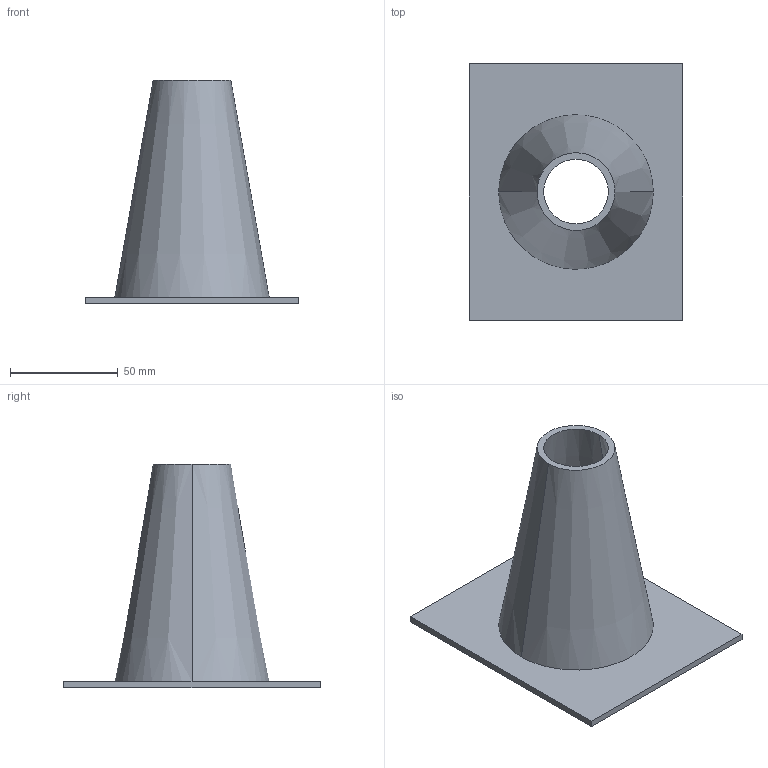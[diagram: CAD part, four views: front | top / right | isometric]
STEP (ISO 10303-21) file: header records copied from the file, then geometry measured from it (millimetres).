
FILE_DESCRIPTION(('CATIA V5 STEP Exchange'),'2;1');
FILE_NAME('C:\_Andres\UNIVERSIDAD\IQS\ASIGNATURAS\DAO\EXF\EXF-15161c\1original\Formosa_Marín_Ej08-ensambla_v9.stp','2016-03-04T21:37:16+00:00',('none'),('none'),'CATIA Version 5 Release 20 SP 1 (IN-10)','CATIA V5 STEP AP203','none');
FILE_SCHEMA(('CONFIG_CONTROL_DESIGN'));
Length unit declared in the file: millimetre
Products named in the file (1): Formosa_Marín_Ej08-ensambla_v9
Bounding box: 99 x 119 x 104 mm (x, y, z)
Volume: 74189.3 mm3; surface area: 51059.6 mm2
Topology: 1 solids, 1 shells, 11 faces, 24 edges, 16 vertices
Faces by surface type: plane 7, cone 4
Entity records: 414 total; most frequent: CARTESIAN_POINT 127, ORIENTED_EDGE 48, DIRECTION 44, EDGE_CURVE 24, AXIS2_PLACEMENT_3D 17, VECTOR 16, LINE 16, VERTEX_POINT 16
